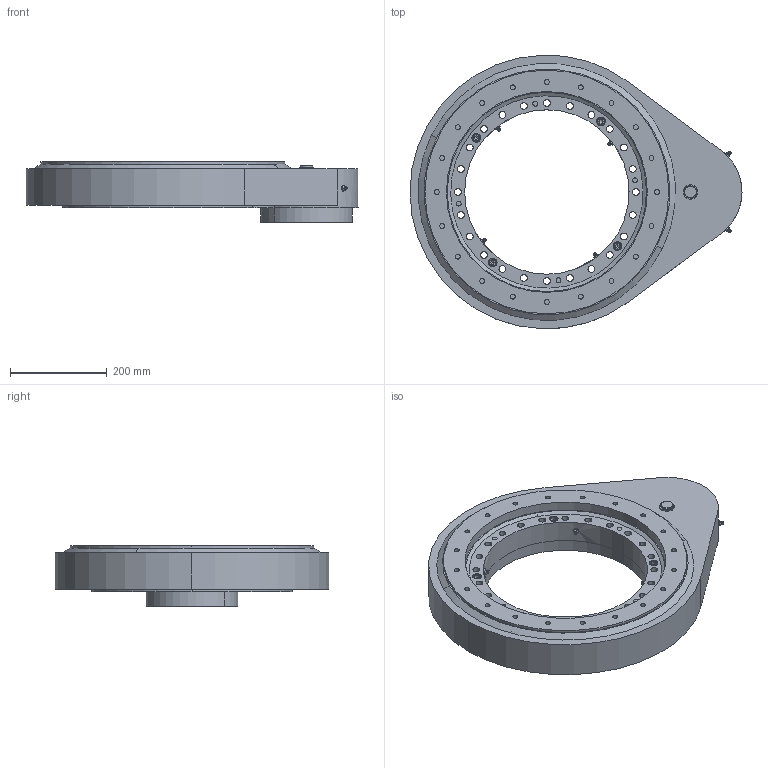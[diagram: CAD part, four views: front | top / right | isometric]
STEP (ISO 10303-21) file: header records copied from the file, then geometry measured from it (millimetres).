
FILE_DESCRIPTION (( 'STEP AP214' ), '1' );
FILE_NAME ('20411.STEP', '2023-03-18T03:47:09', ( '' ), ( '' ), 'SwSTEP 2.0', 'SolidWorks 2021', '' );
FILE_SCHEMA (( 'AUTOMOTIVE_DESIGN' ));
Length unit declared in the file: millimetre
Products named in the file (1): 20411
Bounding box: 686.5 x 565.48 x 125 mm (x, y, z)
Surface area: 929468.5 mm2 (no closed solid volume)
Topology: 0 solids, 52 shells, 518 faces, 1843 edges, 1286 vertices
Faces by surface type: cylinder 216, plane 167, torus 53, cone 52, sphere 30
Entity records: 26701 total; most frequent: CARTESIAN_POINT 5480, DIRECTION 3440, ORIENTED_EDGE 2777, EDGE_CURVE 1731, AXIS2_PLACEMENT_3D 1398, VERTEX_POINT 1226, CIRCLE 879, EDGE_LOOP 731
